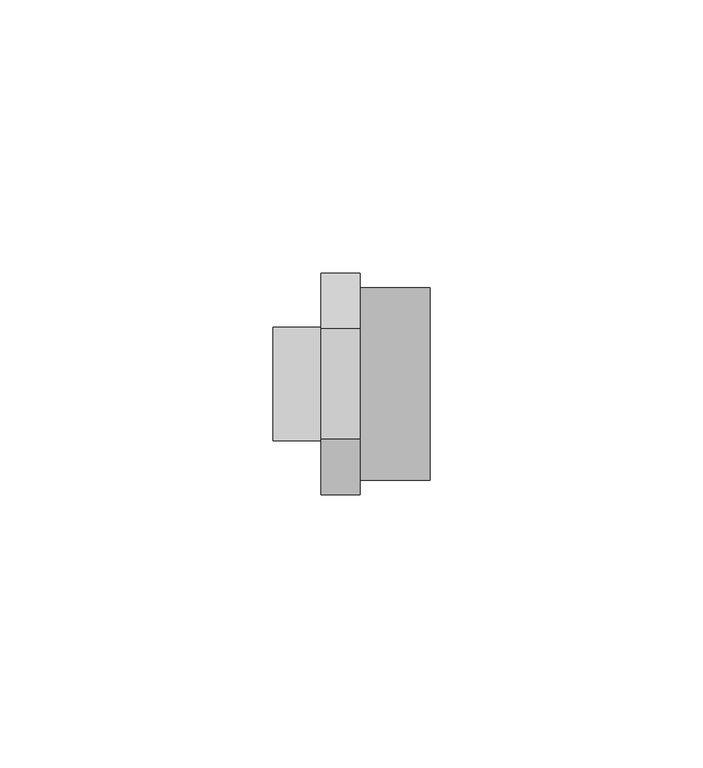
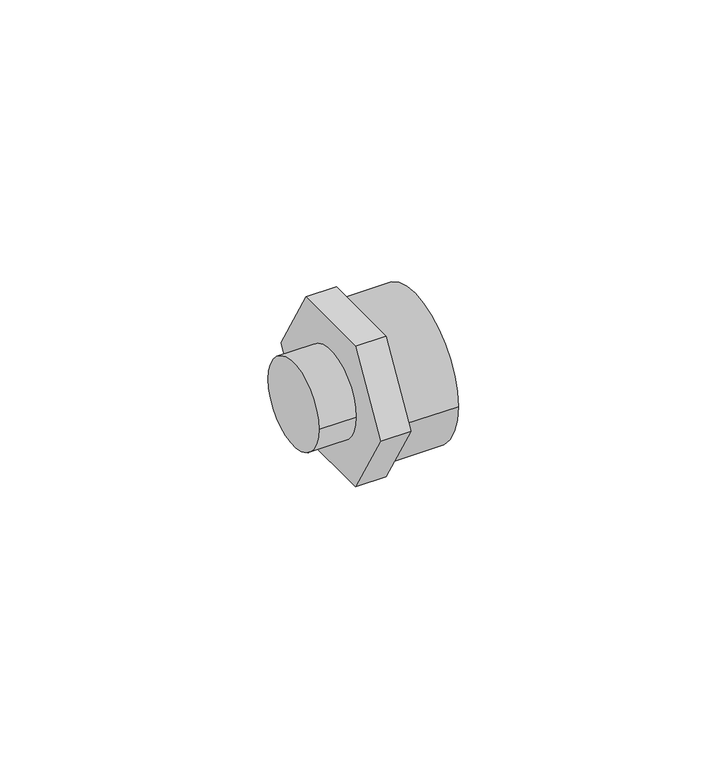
"""IFC4 building model written with IfcOpenShell, lengths in millimetres: pipe fitting geometry, 01101006 : Reducciones H/M."""

from ifc_helpers import new_model, si_unit, point, frame, origin, origin_2d, place, context, project, spatial, polyline, circle_curve, trimmed, segment, composite_curve, outline, extrude, source, transform, mapped, element, save


def pipe_fitting_6be8f3db(model_context):
    return source(origin(), model_context, "Body", "SweptSolid", [
        extrude(outline(composite_curve([segment(trimmed(circle_curve(origin_2d(), 10.4), [point((10.4, 0.0))], [point((-10.4, 0.0))], False, "CARTESIAN"), True, "CONTINUOUS"), segment(trimmed(circle_curve(origin_2d(), 10.4), [point((-10.4, 0.0))], [point((10.4, 0.0))], False, "CARTESIAN"), True, "CONTINUOUS")], self_intersect=False)), frame((0.0, 0.0, 0.0), z_axis=(1.0, 0.0, 0.0), x_axis=(0.0, 1.0, 0.0)), (0.0, 0.0, 1.0), 8.8),
        extrude(outline(polyline([(-10.1613647, 17.6), (10.1613647, 17.6), (20.3227295, 0.0), (10.1613647, -17.6), (-10.1613647, -17.6), (-20.3227295, 0.0), (-10.1613647, 17.6)])), frame((8.8, 0.0, 0.0), z_axis=(1.0, 0.0, 0.0), x_axis=(0.0, 1.0, 0.0)), (0.0, 0.0, 1.0), 7.2),
        extrude(outline(composite_curve([segment(trimmed(circle_curve(origin_2d(), 17.6), [point((-17.6, 0.0))], [point((17.6, 0.0))], False, "CARTESIAN"), True, "CONTINUOUS"), segment(trimmed(circle_curve(origin_2d(), 17.6), [point((17.6, 0.0))], [point((-17.6, 0.0))], False, "CARTESIAN"), True, "CONTINUOUS")], self_intersect=False)), frame((16.0, 0.0, 0.0), z_axis=(1.0, 0.0, 0.0), x_axis=(0.0, 1.0, 0.0)), (0.0, 0.0, 1.0), 12.8),
    ])


if __name__ == "__main__":
    model = new_model("IFC4")
    model_context = context("Model", 3, world=origin())
    ifc_project = project(units=[si_unit("LENGTHUNIT", "METRE", prefix="MILLI")], contexts=[model_context])
    site = spatial("IfcSite", under=ifc_project)
    building = spatial("IfcBuilding", under=site)
    placement = place(None, origin())
    pipe_fitting_shape = pipe_fitting_6be8f3db(model_context)
    element("IfcPipeFitting", 1, ObjectType="01101006 : Reducciones H/M", at=placement, inside=building, context=model_context, shape_type="MappedRepresentation", body=[
        mapped(pipe_fitting_shape, transform((0.0, 0.0, 0.0), x_axis=(1.0, 0.0, 0.0), y_axis=(0.0, 1.0, 0.0), z_axis=(0.0, 0.0, 1.0))),
    ])
    save(model, "model.ifc")
